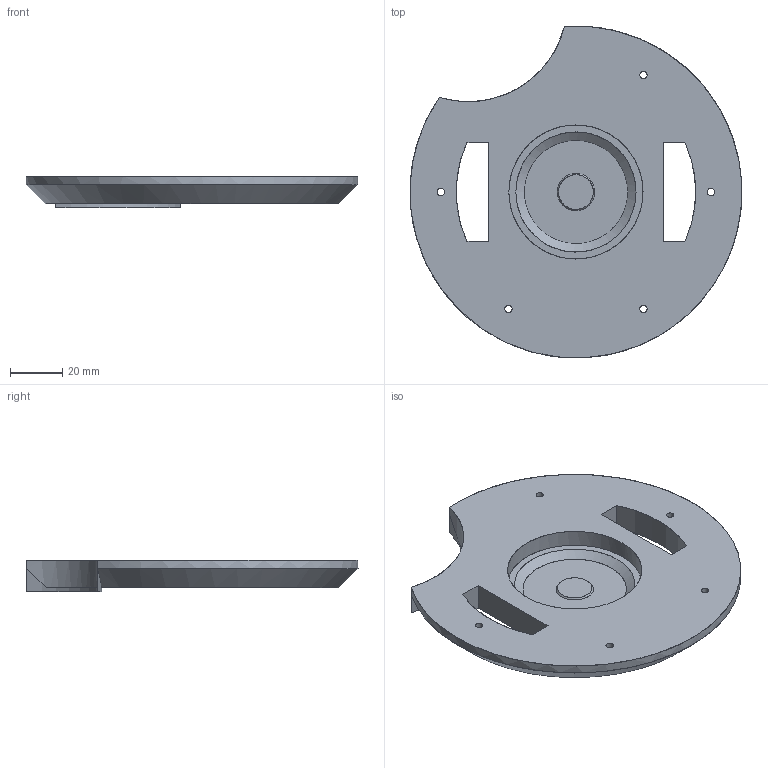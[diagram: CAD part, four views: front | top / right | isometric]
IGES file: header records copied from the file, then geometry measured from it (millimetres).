
Global section: file name: E:\M1337\M1337 Remodel\Metric\Clutch\IGES Files\Clutch Housing Cap.igs; native system: NX V2007; preprocessor: SIEMENS PLM Software NX 2027; date: 20260731.091722; units: millimetre
Bounding box: 126.96 x 126.99 x 12 mm (x, y, z)
Surface area: 29809.6 mm2 (no closed solid volume)
Topology: 0 solids, 0 shells, 39 faces, 472 edges, 492 vertices
Faces by surface type: bspline 39
